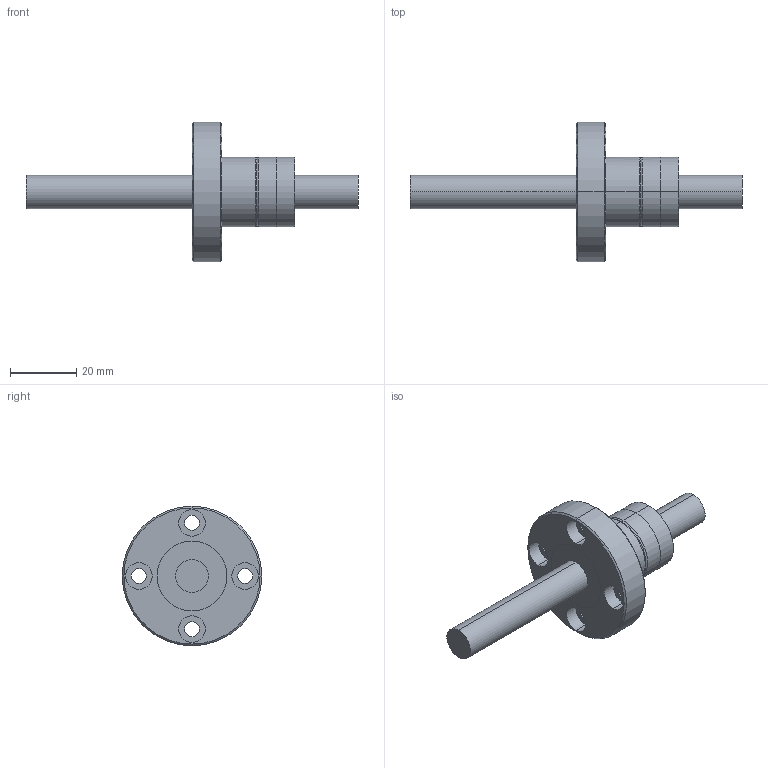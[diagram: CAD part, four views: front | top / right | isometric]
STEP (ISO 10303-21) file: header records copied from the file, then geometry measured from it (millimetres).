
FILE_DESCRIPTION (( 'STEP AP203' ), '1' );
FILE_NAME ('KLF010T3.STEP', '2023-08-17T07:22:55', ( '' ), ( '' ), 'SwSTEP 2.0', 'SolidWorks 2022', '' );
FILE_SCHEMA (( 'CONFIG_CONTROL_DESIGN' ));
Length unit declared in the file: millimetre
Products named in the file (5): KLF010T3; 零件6^KLF010T3; 塑胶2^KLF010T3; 主体^KLF010T3; 塑胶1^KLF010T3
Assembly tree (4 placements, depth 2):
  KLF010T3
    主体^KLF010T3
    塑胶1^KLF010T3
    塑胶2^KLF010T3
    零件6^KLF010T3
Bounding box: 100 x 42 x 42 mm (x, y, z)
Volume: 24334.2 mm3; surface area: 11830.3 mm2
Topology: 4 solids, 4 shells, 62 faces, 135 edges, 86 vertices
Faces by surface type: cylinder 38, plane 14, torus 6, cone 4
Entity records: 2333 total; most frequent: CARTESIAN_POINT 356, DIRECTION 350, ORIENTED_EDGE 270, AXIS2_PLACEMENT_3D 154, EDGE_CURVE 135, VERTEX_POINT 86, CIRCLE 85, EDGE_LOOP 83
